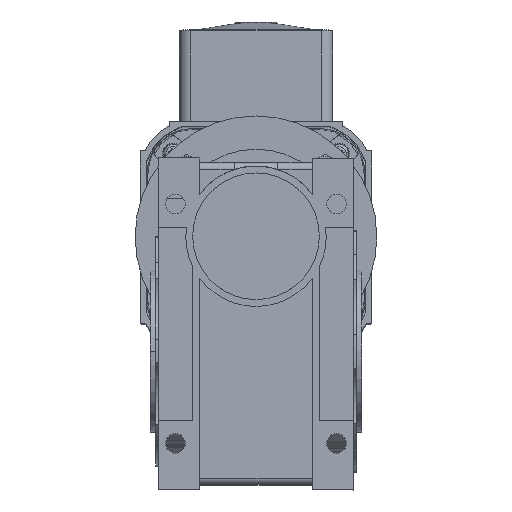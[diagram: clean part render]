
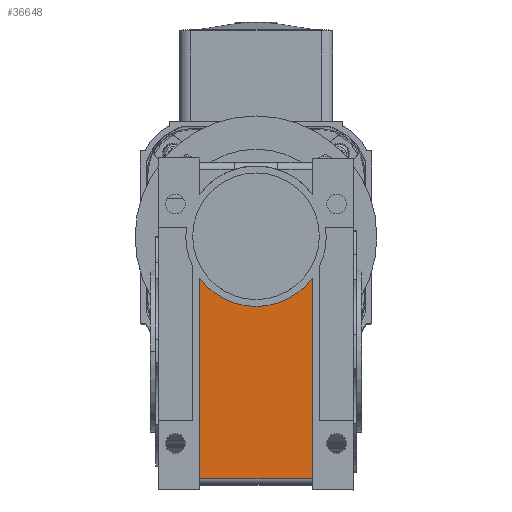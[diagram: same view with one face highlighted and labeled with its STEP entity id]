
A CAD part, top view. The second image highlights one B-rep face of the part: STEP entity #36648.
In plain terms, the highlighted planar face has unit normal (0, 0, 1).
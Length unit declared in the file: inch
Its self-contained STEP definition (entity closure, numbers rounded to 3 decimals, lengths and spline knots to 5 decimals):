
#4473 = EDGE_CURVE ( 'NONE', #4474, #4475, #10198, .T. ) ;
#4474 = VERTEX_POINT ( 'NONE', #10194 ) ;
#4475 = VERTEX_POINT ( 'NONE', #10193 ) ;
#10193 = CARTESIAN_POINT ( 'NONE',  ( -0.00007, -1.20079, 9.87904 ) ) ;
#10194 = CARTESIAN_POINT ( 'NONE',  ( -0.96461, -0.71514, 9.87904 ) ) ;
#10195 = DIRECTION ( 'NONE',  ( 1., 0., 0. ) ) ;
#10196 = DIRECTION ( 'NONE',  ( 0., 0., 1. ) ) ;
#10197 = AXIS2_PLACEMENT_3D ( 'NONE', #10202, #10196, #10195 ) ;
#10198 = CIRCLE ( 'NONE', #10197, 1.20079 ) ;
#10202 = CARTESIAN_POINT ( 'NONE',  ( 0., 0., 9.87904 ) ) ;
#16084 = DIRECTION ( 'NONE',  ( 1., 0., 0. ) ) ;
#16086 = DIRECTION ( 'NONE',  ( 0., 0., 1. ) ) ;
#16087 = CARTESIAN_POINT ( 'NONE',  ( 0., 0., 9.87904 ) ) ;
#16088 = AXIS2_PLACEMENT_3D ( 'NONE', #16087, #16086, #16084 ) ;
#16089 = CIRCLE ( 'NONE', #16088, 1.20079 ) ;
#32627 = EDGE_CURVE ( 'NONE', #4475, #36712, #16089, .T. ) ;
#36516 = EDGE_LOOP ( 'NONE', ( #36738, #36646, #37169, #37100, #37097 ) ) ;
#36526 = VERTEX_POINT ( 'NONE', #40753 ) ;
#36529 = VERTEX_POINT ( 'NONE', #40750 ) ;
#36645 = EDGE_CURVE ( 'NONE', #36526, #36529, #40953, .T. ) ;
#36646 = ORIENTED_EDGE ( 'NONE', *, *, #36645, .T. ) ;
#36648 = ADVANCED_FACE ( 'NONE', ( #40939 ), #40933, .T. ) ;
#36712 = VERTEX_POINT ( 'NONE', #41088 ) ;
#36732 = EDGE_CURVE ( 'NONE', #36526, #4474, #41120, .T. ) ;
#36738 = ORIENTED_EDGE ( 'NONE', *, *, #36732, .F. ) ;
#37097 = ORIENTED_EDGE ( 'NONE', *, *, #4473, .F. ) ;
#37098 = EDGE_CURVE ( 'NONE', #36712, #36529, #41914, .T. ) ;
#37100 = ORIENTED_EDGE ( 'NONE', *, *, #32627, .F. ) ;
#37169 = ORIENTED_EDGE ( 'NONE', *, *, #37098, .F. ) ;
#40750 = CARTESIAN_POINT ( 'NONE',  ( 0.96433, -4.13391, 9.87904 ) ) ;
#40753 = CARTESIAN_POINT ( 'NONE',  ( -0.96481, -4.1338, 9.87904 ) ) ;
#40933 = PLANE ( 'NONE',  #40934 ) ;
#40934 = AXIS2_PLACEMENT_3D ( 'NONE', #40997, #40996, #40994 ) ;
#40939 = FACE_OUTER_BOUND ( 'NONE', #36516, .T. ) ;
#40942 = DIRECTION ( 'NONE',  ( 1., 0., 0. ) ) ;
#40951 = VECTOR ( 'NONE', #40942, 39.37008 ) ;
#40952 = CARTESIAN_POINT ( 'NONE',  ( 0.96433, -4.13391, 9.87904 ) ) ;
#40953 = LINE ( 'NONE', #40952, #40951 ) ;
#40994 = DIRECTION ( 'NONE',  ( 0., -1., 0. ) ) ;
#40996 = DIRECTION ( 'NONE',  ( 0., 0., 1. ) ) ;
#40997 = CARTESIAN_POINT ( 'NONE',  ( 0., 0., 9.87904 ) ) ;
#41088 = CARTESIAN_POINT ( 'NONE',  ( 0.96453, -0.71525, 9.87904 ) ) ;
#41113 = DIRECTION ( 'NONE',  ( 0., 1., 0. ) ) ;
#41114 = VECTOR ( 'NONE', #41113, 39.37008 ) ;
#41115 = CARTESIAN_POINT ( 'NONE',  ( -0.96482, -4.25191, 9.87904 ) ) ;
#41120 = LINE ( 'NONE', #41115, #41114 ) ;
#41911 = DIRECTION ( 'NONE',  ( 0., -1., 0. ) ) ;
#41912 = VECTOR ( 'NONE', #41911, 39.37008 ) ;
#41913 = CARTESIAN_POINT ( 'NONE',  ( 0.96453, -0.71525, 9.87904 ) ) ;
#41914 = LINE ( 'NONE', #41913, #41912 ) ;
